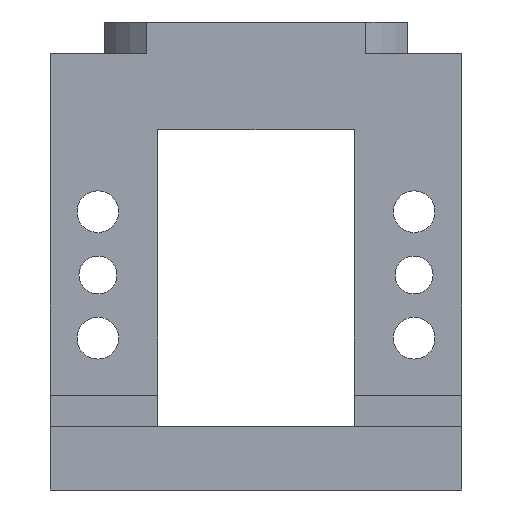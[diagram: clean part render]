
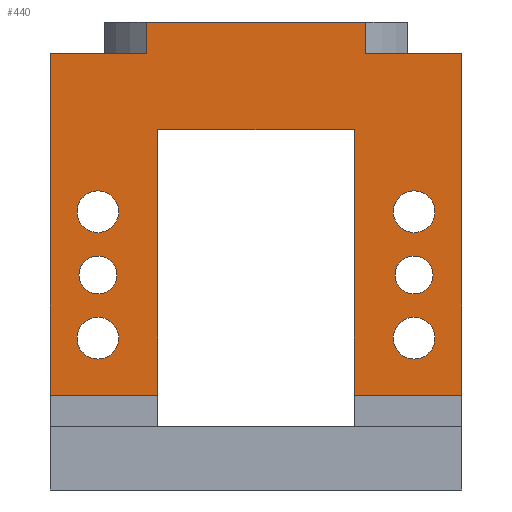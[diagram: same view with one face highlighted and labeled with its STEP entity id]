
A CAD part, front view. The second image highlights one B-rep face of the part: STEP entity #440.
In plain terms, the highlighted planar face has unit normal (0, -1, 0).
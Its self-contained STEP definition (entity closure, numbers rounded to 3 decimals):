
#328=CIRCLE('',#3403,3.);
#332=CIRCLE('',#3409,3.);
#363=CIRCLE('',#3465,3.3);
#366=CIRCLE('',#3470,3.3);
#369=CIRCLE('',#3475,3.3);
#372=CIRCLE('',#3480,3.3);
#440=ADVANCED_FACE('',(#1210,#1211,#1212,#1213,#1214,#1215,#1216),#587,
 .F.);
#587=PLANE('',#3509);
#726=LINE('',#5043,#919);
#732=LINE('',#5057,#925);
#739=LINE('',#5085,#932);
#742=LINE('',#5098,#935);
#744=LINE('',#5101,#937);
#749=LINE('',#5117,#942);
#750=LINE('',#5119,#943);
#751=LINE('',#5121,#944);
#752=LINE('',#5123,#945);
#753=LINE('',#5124,#946);
#754=LINE('',#5126,#947);
#755=LINE('',#5128,#948);
#919=VECTOR('',#3857,1.);
#925=VECTOR('',#3867,1.);
#932=VECTOR('',#3882,1.);
#935=VECTOR('',#3895,1.);
#937=VECTOR('',#3899,1.);
#942=VECTOR('',#3912,1.);
#943=VECTOR('',#3913,1.);
#944=VECTOR('',#3914,1.);
#945=VECTOR('',#3915,1.);
#946=VECTOR('',#3916,1.);
#947=VECTOR('',#3917,1.);
#948=VECTOR('',#3918,1.);
#1210=FACE_BOUND('',#1348,.T.);
#1211=FACE_BOUND('',#1349,.T.);
#1212=FACE_BOUND('',#1350,.T.);
#1213=FACE_BOUND('',#1351,.T.);
#1214=FACE_BOUND('',#1352,.T.);
#1215=FACE_BOUND('',#1353,.T.);
#1216=FACE_BOUND('',#1354,.T.);
#1348=EDGE_LOOP('',(#1787));
#1349=EDGE_LOOP('',(#1788));
#1350=EDGE_LOOP('',(#1789));
#1351=EDGE_LOOP('',(#1790));
#1352=EDGE_LOOP('',(#1791));
#1353=EDGE_LOOP('',(#1792));
#1354=EDGE_LOOP('',(#1793,#1794,#1795,#1796,#1797,#1798,#1799,#1800,#1801,
#1802,#1803,#1804));
#1787=ORIENTED_EDGE('',*,*,#2828,.F.);
#1788=ORIENTED_EDGE('',*,*,#2832,.F.);
#1789=ORIENTED_EDGE('',*,*,#2874,.F.);
#1790=ORIENTED_EDGE('',*,*,#2871,.F.);
#1791=ORIENTED_EDGE('',*,*,#2865,.F.);
#1792=ORIENTED_EDGE('',*,*,#2868,.F.);
#1793=ORIENTED_EDGE('',*,*,#2934,.F.);
#1794=ORIENTED_EDGE('',*,*,#2943,.F.);
#1795=ORIENTED_EDGE('',*,*,#2944,.T.);
#1796=ORIENTED_EDGE('',*,*,#2945,.T.);
#1797=ORIENTED_EDGE('',*,*,#2946,.F.);
#1798=ORIENTED_EDGE('',*,*,#2916,.F.);
#1799=ORIENTED_EDGE('',*,*,#2947,.T.);
#1800=ORIENTED_EDGE('',*,*,#2948,.T.);
#1801=ORIENTED_EDGE('',*,*,#2949,.F.);
#1802=ORIENTED_EDGE('',*,*,#2909,.T.);
#1803=ORIENTED_EDGE('',*,*,#2936,.F.);
#1804=ORIENTED_EDGE('',*,*,#2927,.F.);
#2508=VERTEX_POINT('',#4810);
#2512=VERTEX_POINT('',#4820);
#2549=VERTEX_POINT('',#4951);
#2552=VERTEX_POINT('',#4959);
#2555=VERTEX_POINT('',#4967);
#2558=VERTEX_POINT('',#4975);
#2584=VERTEX_POINT('',#5042);
#2585=VERTEX_POINT('',#5044);
#2590=VERTEX_POINT('',#5056);
#2591=VERTEX_POINT('',#5058);
#2599=VERTEX_POINT('',#5084);
#2600=VERTEX_POINT('',#5086);
#2604=VERTEX_POINT('',#5097);
#2608=VERTEX_POINT('',#5118);
#2609=VERTEX_POINT('',#5120);
#2610=VERTEX_POINT('',#5122);
#2611=VERTEX_POINT('',#5125);
#2612=VERTEX_POINT('',#5127);
#2828=EDGE_CURVE('',#2508,#2508,#328,.T.);
#2832=EDGE_CURVE('',#2512,#2512,#332,.T.);
#2865=EDGE_CURVE('',#2549,#2549,#363,.T.);
#2868=EDGE_CURVE('',#2552,#2552,#366,.T.);
#2871=EDGE_CURVE('',#2555,#2555,#369,.T.);
#2874=EDGE_CURVE('',#2558,#2558,#372,.T.);
#2909=EDGE_CURVE('',#2585,#2584,#726,.T.);
#2916=EDGE_CURVE('',#2590,#2591,#732,.T.);
#2927=EDGE_CURVE('',#2599,#2600,#739,.T.);
#2934=EDGE_CURVE('',#2604,#2599,#742,.T.);
#2936=EDGE_CURVE('',#2600,#2584,#744,.T.);
#2943=EDGE_CURVE('',#2608,#2604,#749,.T.);
#2944=EDGE_CURVE('',#2608,#2609,#750,.T.);
#2945=EDGE_CURVE('',#2609,#2610,#751,.T.);
#2946=EDGE_CURVE('',#2591,#2610,#752,.T.);
#2947=EDGE_CURVE('',#2590,#2611,#753,.T.);
#2948=EDGE_CURVE('',#2611,#2612,#754,.T.);
#2949=EDGE_CURVE('',#2585,#2612,#755,.T.);
#3403=AXIS2_PLACEMENT_3D('',#4809,#3648,#3649);
#3409=AXIS2_PLACEMENT_3D('',#4819,#3660,#3661);
#3465=AXIS2_PLACEMENT_3D('',#4950,#3772,#3773);
#3470=AXIS2_PLACEMENT_3D('',#4958,#3782,#3783);
#3475=AXIS2_PLACEMENT_3D('',#4966,#3792,#3793);
#3480=AXIS2_PLACEMENT_3D('',#4974,#3802,#3803);
#3509=AXIS2_PLACEMENT_3D('',#5129,#3919,#3920);
#3648=DIRECTION('',(0.,-1.,0.));
#3649=DIRECTION('',(0.,0.,-1.));
#3660=DIRECTION('',(0.,-1.,0.));
#3661=DIRECTION('',(0.,0.,-1.));
#3772=DIRECTION('',(0.,-1.,0.));
#3773=DIRECTION('',(-1.,0.,0.));
#3782=DIRECTION('',(0.,-1.,0.));
#3783=DIRECTION('',(-1.,0.,0.));
#3792=DIRECTION('',(0.,-1.,0.));
#3793=DIRECTION('',(-1.,0.,0.));
#3802=DIRECTION('',(0.,-1.,0.));
#3803=DIRECTION('',(-1.,0.,0.));
#3857=DIRECTION('',(-1.,0.,0.));
#3867=DIRECTION('',(-1.,0.,0.));
#3882=DIRECTION('',(1.,0.,0.));
#3895=DIRECTION('',(0.,0.,1.));
#3899=DIRECTION('',(0.,0.,-1.));
#3912=DIRECTION('',(1.,0.,0.));
#3913=DIRECTION('',(0.,0.,-1.));
#3914=DIRECTION('',(1.,0.,0.));
#3915=DIRECTION('',(0.,0.,-1.));
#3916=DIRECTION('',(0.,0.,-1.));
#3917=DIRECTION('',(1.,0.,0.));
#3918=DIRECTION('',(0.,0.,-1.));
#3919=DIRECTION('',(0.,1.,0.));
#3920=DIRECTION('',(1.,0.,0.));
#4809=CARTESIAN_POINT('',(-25.,-22.,29.));
#4810=CARTESIAN_POINT('',(-25.,-22.,26.));
#4819=CARTESIAN_POINT('',(25.,-22.,29.));
#4820=CARTESIAN_POINT('',(25.,-22.,26.));
#4950=CARTESIAN_POINT('',(25.,-22.,39.));
#4951=CARTESIAN_POINT('',(21.7,-22.,39.));
#4958=CARTESIAN_POINT('',(25.,-22.,19.));
#4959=CARTESIAN_POINT('',(21.7,-22.,19.));
#4966=CARTESIAN_POINT('',(-25.,-22.,19.));
#4967=CARTESIAN_POINT('',(-28.3,-22.,19.));
#4974=CARTESIAN_POINT('',(-25.,-22.,39.));
#4975=CARTESIAN_POINT('',(-28.3,-22.,39.));
#5042=CARTESIAN_POINT('',(17.321,-22.,64.));
#5043=CARTESIAN_POINT('',(32.5,-22.,64.));
#5044=CARTESIAN_POINT('',(32.5,-22.,64.));
#5056=CARTESIAN_POINT('',(15.5,-22.,52.));
#5057=CARTESIAN_POINT('',(-31.,-22.,52.));
#5058=CARTESIAN_POINT('',(-15.5,-22.,52.));
#5084=CARTESIAN_POINT('',(-17.321,-22.,69.));
#5085=CARTESIAN_POINT('',(26.,-22.,69.));
#5086=CARTESIAN_POINT('',(17.321,-22.,69.));
#5097=CARTESIAN_POINT('',(-17.321,-22.,64.));
#5098=CARTESIAN_POINT('',(-17.321,-22.,-25.344));
#5101=CARTESIAN_POINT('',(17.321,-22.,-25.344));
#5117=CARTESIAN_POINT('',(-32.5,-22.,64.));
#5118=CARTESIAN_POINT('',(-32.5,-22.,64.));
#5119=CARTESIAN_POINT('',(-32.5,-22.,64.));
#5120=CARTESIAN_POINT('',(-32.5,-22.,10.));
#5121=CARTESIAN_POINT('',(-32.5,-22.,10.));
#5122=CARTESIAN_POINT('',(-15.5,-22.,10.));
#5123=CARTESIAN_POINT('',(-15.5,-22.,59.));
#5124=CARTESIAN_POINT('',(15.5,-22.,59.));
#5125=CARTESIAN_POINT('',(15.5,-22.,10.));
#5126=CARTESIAN_POINT('',(-32.5,-22.,10.));
#5127=CARTESIAN_POINT('',(32.5,-22.,10.));
#5128=CARTESIAN_POINT('',(32.5,-22.,64.));
#5129=CARTESIAN_POINT('',(32.5,-22.,64.));
